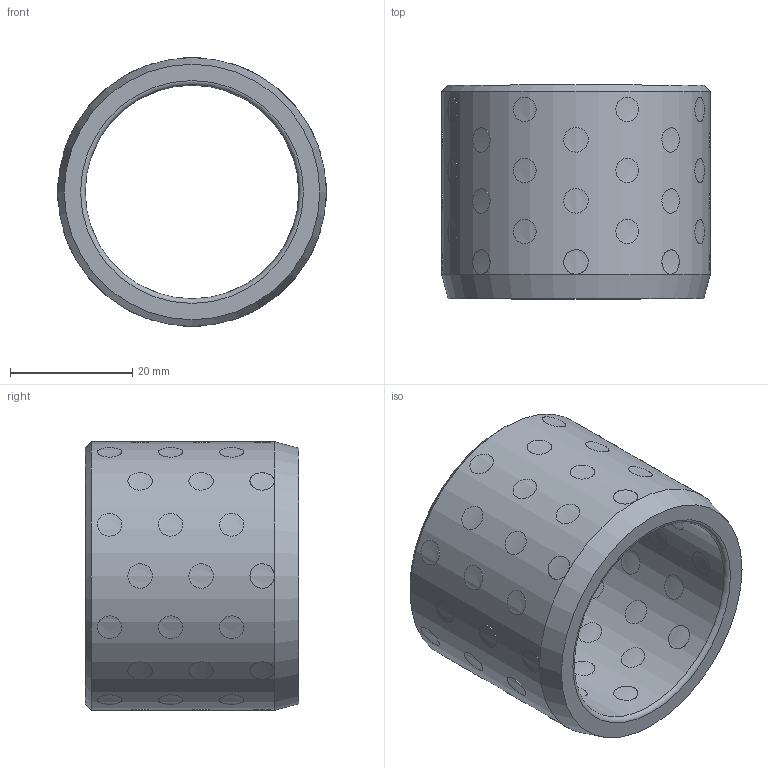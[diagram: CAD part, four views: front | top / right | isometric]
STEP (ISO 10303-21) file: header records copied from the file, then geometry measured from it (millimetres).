
FILE_DESCRIPTION( ( 'STEP AP203' ), '1' );
FILE_NAME( 'D:/Cuma/18 03 2010/D30.04/D30.04_353544.step', '2003-01-24T23:04:32', ( ' ' ), ( ' ' ), 'XStep 1.0', ' ', ' ' );
FILE_SCHEMA( ( 'CONFIG_CONTROL_DESIGN' ) );
Length unit declared in the file: metre
Products named in the file (57): 1; 2; 3; 4; 5; 6; 7; 8; 9; 10; 11; 12; 13; 14; 15; 16; 17; 18; 19; 20; 21; 22; 23; 24; 25; 26; 27; 28; 29; 30; 31; 32; 33; 34; 35; 36; 37; 38; 39; 40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
Bounding box: 44 x 35 x 44 mm (x, y, z)
Volume: 22329.1 mm3; surface area: 14096 mm2
Topology: 57 solids, 57 shells, 176 faces, 182 edges, 120 vertices
Faces by surface type: cylinder 170, torus 2, plane 2, cone 2
Full cylindrical faces by diameter (mm): 4 x56, 35 x1, 44 x1
Entity records: 11077 total; most frequent: CARTESIAN_POINT 6409, DIRECTION 482, CC_DESIGN_PERSON_AND_ORGANIZATION_ASSIGNMENT 285, AXIS2_PLACEMENT_3D 241, EDGE_LOOP 240, ORIENTED_EDGE 240, FACE_OUTER_BOUND 236, PERSON_AND_ORGANIZATION_ROLE 228
